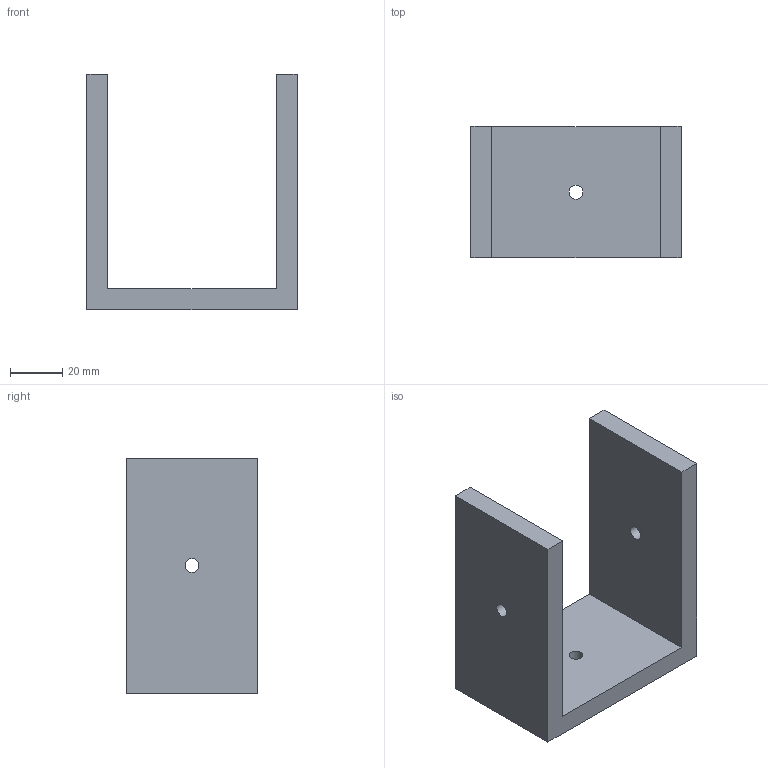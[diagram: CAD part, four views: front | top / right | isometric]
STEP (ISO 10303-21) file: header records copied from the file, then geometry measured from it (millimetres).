
FILE_DESCRIPTION(('Mechanical CAD reference from nasji.com'),'2;1');
FILE_NAME('NASJI.step','',(''),(''),'','NASJI distribution','');
FILE_SCHEMA(('AUTOMOTIVE_DESIGN { 1 0 10303 214 1 1 1 1 }'));
Length unit declared in the file: millimetre
Products named in the file (1): Open CASCADE STEP translator 7.8 158
Bounding box: 80.25 x 50 x 90 mm (x, y, z)
Volume: 97170.5 mm3; surface area: 29400.2 mm2
Topology: 1 solids, 1 shells, 13 faces, 33 edges, 22 vertices
Faces by surface type: plane 10, cylinder 3
Full cylindrical faces by diameter (mm): 5.3 x3
Entity records: 852 total; most frequent: CARTESIAN_POINT 163, DIRECTION 125, LINE 83, VECTOR 83, ORIENTED_EDGE 66, PCURVE 66, DEFINITIONAL_REPRESENTATION 66, EDGE_CURVE 33
